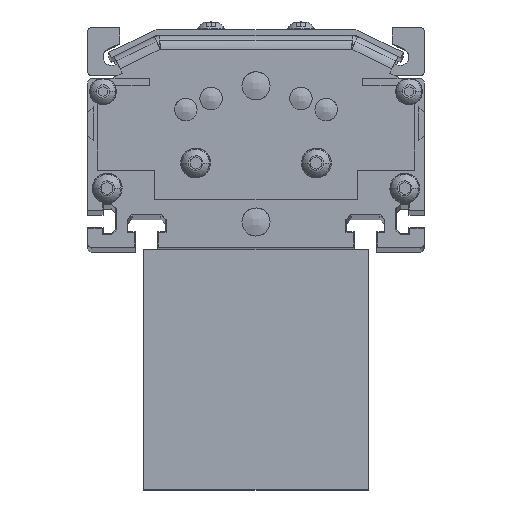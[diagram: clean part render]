
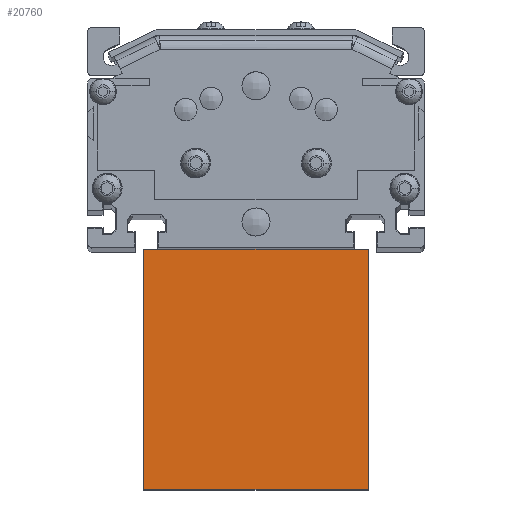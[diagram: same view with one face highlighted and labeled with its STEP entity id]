
A CAD part, top view. The second image highlights one B-rep face of the part: STEP entity #20760.
In plain terms, the highlighted planar face has unit normal (0, 0, 1).
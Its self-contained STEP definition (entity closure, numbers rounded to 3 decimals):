
#1217 = ORIENTED_EDGE ( 'NONE', *, *, #10915, .F. ) ;
#2713 = ORIENTED_EDGE ( 'NONE', *, *, #3050, .T. ) ;
#3050 = EDGE_CURVE ( 'NONE', #6895, #8111, #20291, .T. ) ;
#3192 = DIRECTION ( 'NONE',  ( 0., -1., 0. ) ) ;
#3418 = CARTESIAN_POINT ( 'NONE',  ( 40., 0., 65. ) ) ;
#6189 = DIRECTION ( 'NONE',  ( 0., -1., 0. ) ) ;
#6780 = PLANE ( 'NONE',  #13084 ) ;
#6895 = VERTEX_POINT ( 'NONE', #18763 ) ;
#6953 = DIRECTION ( 'NONE',  ( -1., 0., 0. ) ) ;
#7491 = EDGE_CURVE ( 'NONE', #23457, #6895, #23545, .T. ) ;
#8111 = VERTEX_POINT ( 'NONE', #14235 ) ;
#8515 = VECTOR ( 'NONE', #3192, 1000. ) ;
#9313 = CARTESIAN_POINT ( 'NONE',  ( 40., 0., 65. ) ) ;
#10915 = EDGE_CURVE ( 'NONE', #23457, #19575, #16517, .T. ) ;
#11126 = LINE ( 'NONE', #9313, #23652 ) ;
#12516 = CARTESIAN_POINT ( 'NONE',  ( 40., 85.5, 65. ) ) ;
#13084 = AXIS2_PLACEMENT_3D ( 'NONE', #19327, #19686, #15661 ) ;
#14235 = CARTESIAN_POINT ( 'NONE',  ( -40., 0., 65. ) ) ;
#15661 = DIRECTION ( 'NONE',  ( -1., 0., 0. ) ) ;
#15752 = ORIENTED_EDGE ( 'NONE', *, *, #7491, .T. ) ;
#16517 = LINE ( 'NONE', #3418, #8515 ) ;
#16725 = DIRECTION ( 'NONE',  ( -1., 0., 0. ) ) ;
#17651 = VECTOR ( 'NONE', #6189, 1000. ) ;
#18444 = CARTESIAN_POINT ( 'NONE',  ( -40., 0., 65. ) ) ;
#18763 = CARTESIAN_POINT ( 'NONE',  ( -40., 85.5, 65. ) ) ;
#19327 = CARTESIAN_POINT ( 'NONE',  ( 40., 0., 65. ) ) ;
#19419 = CARTESIAN_POINT ( 'NONE',  ( 40., 85.5, 65. ) ) ;
#19575 = VERTEX_POINT ( 'NONE', #20450 ) ;
#19686 = DIRECTION ( 'NONE',  ( 0., 0., -1. ) ) ;
#20291 = LINE ( 'NONE', #18444, #17651 ) ;
#20450 = CARTESIAN_POINT ( 'NONE',  ( 40., 0., 65. ) ) ;
#20760 = ADVANCED_FACE ( 'NONE', ( #23377 ), #6780, .F. ) ;
#20939 = EDGE_CURVE ( 'NONE', #19575, #8111, #11126, .T. ) ;
#21128 = VECTOR ( 'NONE', #6953, 1000. ) ;
#23085 = ORIENTED_EDGE ( 'NONE', *, *, #20939, .F. ) ;
#23182 = EDGE_LOOP ( 'NONE', ( #2713, #23085, #1217, #15752 ) ) ;
#23377 = FACE_OUTER_BOUND ( 'NONE', #23182, .T. ) ;
#23457 = VERTEX_POINT ( 'NONE', #19419 ) ;
#23545 = LINE ( 'NONE', #12516, #21128 ) ;
#23652 = VECTOR ( 'NONE', #16725, 1000. ) ;
